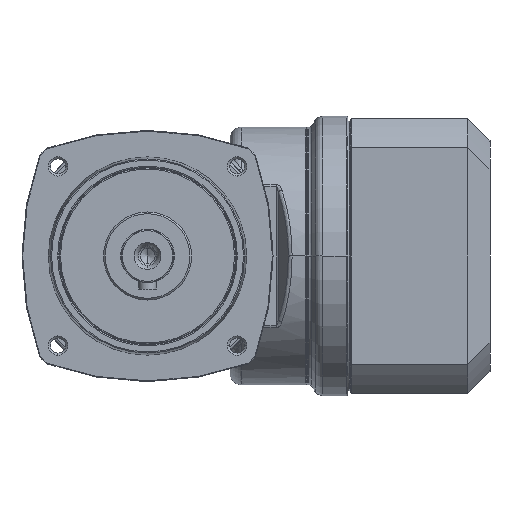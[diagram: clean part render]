
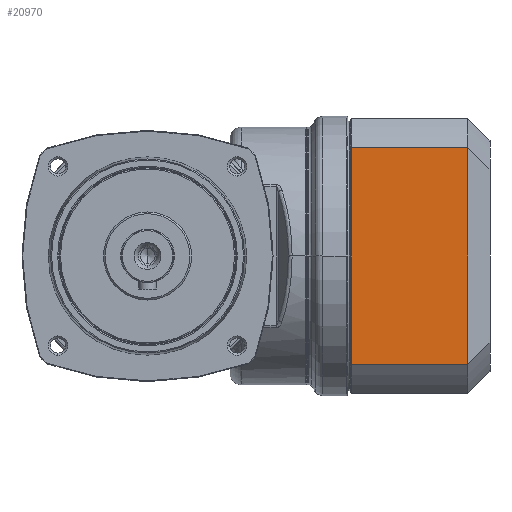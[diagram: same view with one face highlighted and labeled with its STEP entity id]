
A CAD part, left-side view. The second image highlights one B-rep face of the part: STEP entity #20970.
In plain terms, the highlighted planar face has unit normal (-1, 0, 0) as drawn and (0, -1, 0) by its records, which use the part's own axes.
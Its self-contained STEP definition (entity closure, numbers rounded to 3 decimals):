
#19724=DIRECTION('',(1.,0.,0.));
#19725=VECTOR('',#19724,98.265);
#19726=CARTESIAN_POINT('',(-49.132,-62.5,56.));
#19727=LINE('',#19726,#19725);
#19728=DIRECTION('',(0.,0.,1.));
#19729=VECTOR('',#19728,53.1);
#19730=CARTESIAN_POINT('',(49.132,-62.5,
2.9));
#19731=LINE('',#19730,#19729);
#19732=DIRECTION('',(1.,0.,0.));
#19733=VECTOR('',#19732,98.265);
#19734=CARTESIAN_POINT('',(-49.132,-62.5,
2.9));
#19735=LINE('',#19734,#19733);
#19736=DIRECTION('',(0.,0.,1.));
#19737=VECTOR('',#19736,53.1);
#19738=CARTESIAN_POINT('',(-49.132,-62.5,
2.9));
#19739=LINE('',#19738,#19737);
#19745=CARTESIAN_POINT('',(49.132,-62.5,56.));
#20060=CARTESIAN_POINT('',(-49.132,-62.5,2.9));
#20062=VERTEX_POINT('',#20060);
#20065=CARTESIAN_POINT('',(49.132,-62.5,
2.9));
#20066=VERTEX_POINT('',#20065);
#20112=CARTESIAN_POINT('',(-49.132,-62.5,56.));
#20114=VERTEX_POINT('',#20112);
#20122=VERTEX_POINT('',#19745);
#20958=CARTESIAN_POINT('',(-62.5,-62.5,0.));
#20959=DIRECTION('',(0.,-1.,0.));
#20960=DIRECTION('',(1.,0.,0.));
#20961=AXIS2_PLACEMENT_3D('',#20958,#20959,#20960);
#20962=PLANE('',#20961);
#20964=ORIENTED_EDGE('',*,*,#20963,.T.);
#20965=ORIENTED_EDGE('',*,*,#20874,.F.);
#20966=ORIENTED_EDGE('',*,*,#20952,.F.);
#20967=ORIENTED_EDGE('',*,*,#20885,.T.);
#20968=EDGE_LOOP('',(#20964,#20965,#20966,#20967));
#20969=FACE_OUTER_BOUND('',#20968,.F.);
#20970=ADVANCED_FACE('',(#20969),#20962,.T.);
#20874=EDGE_CURVE('',#20066,#20122,#19731,.T.);
#20885=EDGE_CURVE('',#20062,#20114,#19739,.T.);
#20952=EDGE_CURVE('',#20062,#20066,#19735,.T.);
#20963=EDGE_CURVE('',#20114,#20122,#19727,.T.);
